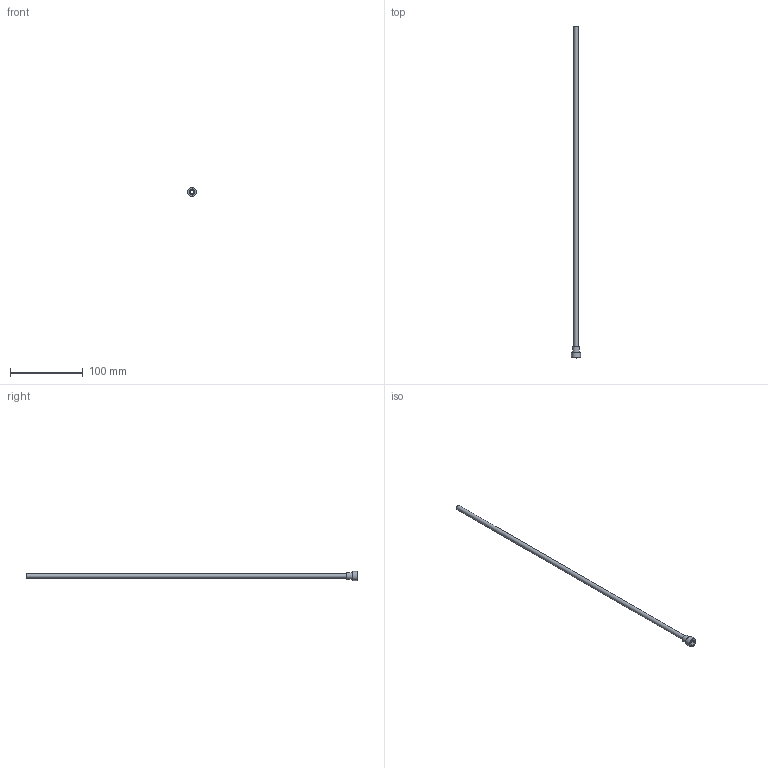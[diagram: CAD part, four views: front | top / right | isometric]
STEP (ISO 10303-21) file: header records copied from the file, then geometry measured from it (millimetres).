
FILE_DESCRIPTION(/* description */ (''),/* implementation_level */ '2;1');
FILE_NAME(/* name */ 'C:/Users/drich/Desktop/JR250T-18 v1.step',/* time_stamp */ '2019-12-30T13:05:39-06:00',/* author */ (''),/* organization */ (''),/* preprocessor_version */ 'ST-DEVELOPER v18',/* originating_system */ 'Autodesk Translation Framework v8.12.0.6',/* authorisation */ '');
FILE_SCHEMA (('AUTOMOTIVE_DESIGN { 1 0 10303 214 3 1 1 }'));
Length unit declared in the file: inch
Products named in the file (1): JR250T-18
Bounding box: 12.57 x 457.2 x 12.57 mm (x, y, z)
Volume: 3114.1 mm3; surface area: 17967.4 mm2
Topology: 1 solids, 1 shells, 19 faces, 47 edges, 33 vertices
Faces by surface type: plane 11, cylinder 4, torus 3, cone 1
Full cylindrical faces by diameter (mm): 5.842 x1, 6.35 x1, 9.406 x1, 12.573 x1
Entity records: 624 total; most frequent: DIRECTION 111, CARTESIAN_POINT 100, ORIENTED_EDGE 94, EDGE_CURVE 47, AXIS2_PLACEMENT_3D 44, VERTEX_POINT 33, EDGE_LOOP 24, CIRCLE 24
